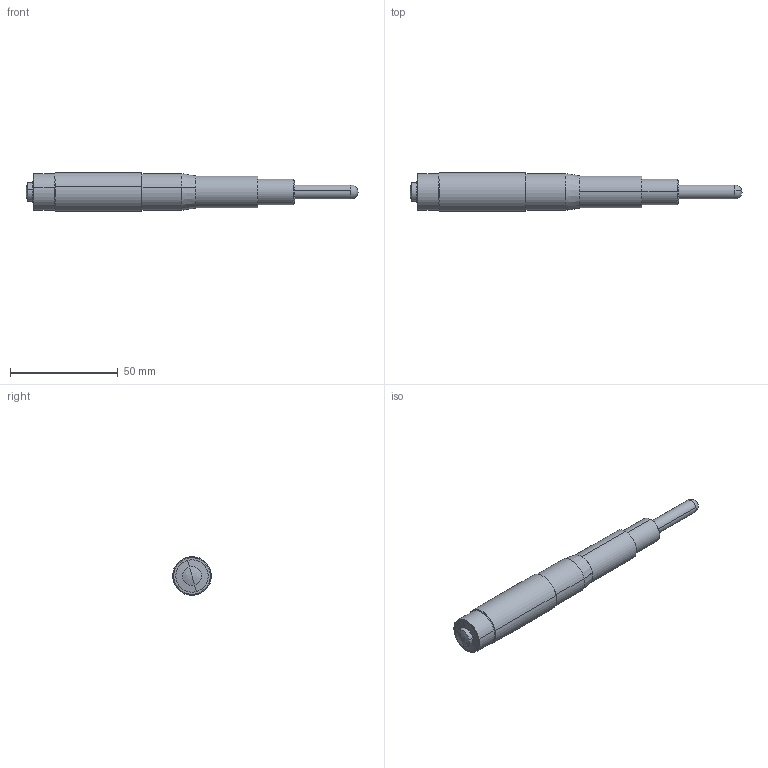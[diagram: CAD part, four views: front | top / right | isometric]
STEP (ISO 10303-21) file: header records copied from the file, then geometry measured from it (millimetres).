
FILE_DESCRIPTION (( 'STEP AP203' ), '1' );
FILE_NAME ('MT50-3.STEP', '2020-01-03T02:24:38', ( 'User' ), ( 'No' ), 'SwSTEP 2.0', 'SolidWorks 2012', '' );
FILE_SCHEMA (( 'CONFIG_CONTROL_DESIGN' ));
Length unit declared in the file: millimetre
Products named in the file (3): MT50-1_b_customer; MT50-3_a_customer; MT50-3
Assembly tree (2 placements, depth 2):
  MT50-3
    MT50-1_b_customer
    MT50-3_a_customer
Bounding box: 154 x 17.94 x 17.94 mm (x, y, z)
Volume: 20689.3 mm3; surface area: 16129.6 mm2
Topology: 2 solids, 2 shells, 133 faces, 339 edges, 222 vertices
Faces by surface type: bspline 49, plane 40, cylinder 28, torus 6, sphere 6, cone 4
Entity records: 10062 total; most frequent: CARTESIAN_POINT 6906, ORIENTED_EDGE 674, DIRECTION 462, EDGE_CURVE 337, VERTEX_POINT 222, AXIS2_PLACEMENT_3D 199, B_SPLINE_CURVE_WITH_KNOTS 163, EDGE_LOOP 149
